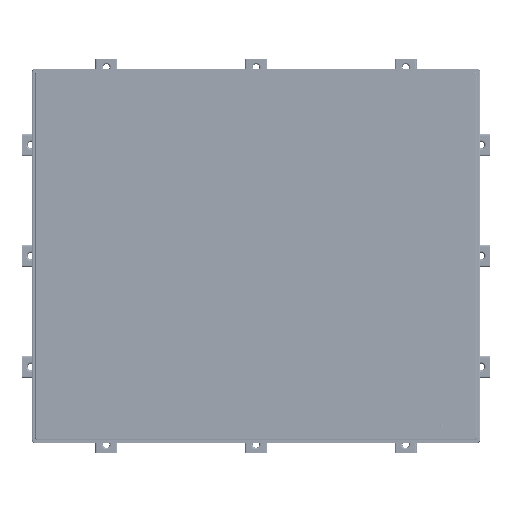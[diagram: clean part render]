
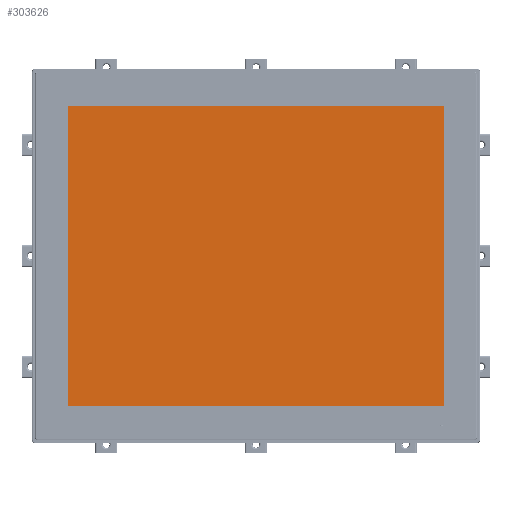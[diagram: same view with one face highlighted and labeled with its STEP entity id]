
A CAD part, top view. The second image highlights one B-rep face of the part: STEP entity #303626.
In plain terms, the highlighted planar face has unit normal (0, 0, 1).
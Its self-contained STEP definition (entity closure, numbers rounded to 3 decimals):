
#4119=DIRECTION('',(0.,1.,0.));
#4120=VECTOR('',#4119,271.);
#4121=CARTESIAN_POINT('',(169.25,-135.5,5.2));
#4122=LINE('',#4121,#4120);
#4123=DIRECTION('',(1.,0.,0.));
#4124=VECTOR('',#4123,46.75);
#4125=CARTESIAN_POINT('',(122.5,-135.5,5.2));
#4126=LINE('',#4125,#4124);
#4127=DIRECTION('',(0.,1.,0.));
#4128=VECTOR('',#4127,0.25);
#4129=CARTESIAN_POINT('',(122.5,-135.75,5.2));
#4130=LINE('',#4129,#4128);
#4131=DIRECTION('',(0.,1.,0.));
#4132=VECTOR('',#4131,0.25);
#4133=CARTESIAN_POINT('',(117.5,-135.75,5.2));
#4134=LINE('',#4133,#4132);
#4135=DIRECTION('',(1.,0.,0.));
#4136=VECTOR('',#4135,235.);
#4137=CARTESIAN_POINT('',(-117.5,-135.5,5.2));
#4138=LINE('',#4137,#4136);
#4139=DIRECTION('',(0.,1.,0.));
#4140=VECTOR('',#4139,0.25);
#4141=CARTESIAN_POINT('',(-117.5,-135.75,5.2));
#4142=LINE('',#4141,#4140);
#4143=DIRECTION('',(0.,1.,0.));
#4144=VECTOR('',#4143,0.25);
#4145=CARTESIAN_POINT('',(-122.5,-135.75,5.2));
#4146=LINE('',#4145,#4144);
#4147=DIRECTION('',(1.,0.,0.));
#4148=VECTOR('',#4147,46.75);
#4149=CARTESIAN_POINT('',(-169.25,-135.5,5.2));
#4150=LINE('',#4149,#4148);
#4151=DIRECTION('',(0.,-1.,0.));
#4152=VECTOR('',#4151,271.);
#4153=CARTESIAN_POINT('',(-169.25,135.5,5.2));
#4154=LINE('',#4153,#4152);
#4155=DIRECTION('',(-1.,0.,0.));
#4156=VECTOR('',#4155,338.5);
#4157=CARTESIAN_POINT('',(169.25,135.5,5.2));
#4158=LINE('',#4157,#4156);
#225439=DIRECTION('',(-1.,0.,0.));
#225440=VECTOR('',#225439,5.);
#225441=CARTESIAN_POINT('',(-117.5,-135.75,5.2));
#225442=LINE('',#225441,#225440);
#225447=DIRECTION('',(-1.,0.,0.));
#225448=VECTOR('',#225447,5.);
#225449=CARTESIAN_POINT('',(122.5,-135.75,5.2));
#225450=LINE('',#225449,#225448);
#289298=CARTESIAN_POINT('',(169.25,-135.5,5.2));
#289299=CARTESIAN_POINT('',(169.25,135.5,5.2));
#289300=VERTEX_POINT('',#289298);
#289301=VERTEX_POINT('',#289299);
#289302=CARTESIAN_POINT('',(-169.25,-135.5,5.2));
#289303=CARTESIAN_POINT('',(-122.5,-135.5,5.2));
#289304=VERTEX_POINT('',#289302);
#289305=VERTEX_POINT('',#289303);
#289306=CARTESIAN_POINT('',(-117.5,-135.5,5.2));
#289307=CARTESIAN_POINT('',(117.5,-135.5,5.2));
#289308=VERTEX_POINT('',#289306);
#289309=VERTEX_POINT('',#289307);
#289310=CARTESIAN_POINT('',(122.5,-135.5,5.2));
#289311=VERTEX_POINT('',#289310);
#289312=CARTESIAN_POINT('',(-169.25,135.5,5.2));
#289313=VERTEX_POINT('',#289312);
#289314=CARTESIAN_POINT('',(-122.5,-135.75,5.2));
#289315=VERTEX_POINT('',#289314);
#289316=CARTESIAN_POINT('',(-117.5,-135.75,5.2));
#289317=VERTEX_POINT('',#289316);
#289318=CARTESIAN_POINT('',(117.5,-135.75,5.2));
#289319=VERTEX_POINT('',#289318);
#289320=CARTESIAN_POINT('',(122.5,-135.75,5.2));
#289321=VERTEX_POINT('',#289320);
#303596=CARTESIAN_POINT('',(0.,0.,5.2));
#303597=DIRECTION('',(0.,0.,1.));
#303598=DIRECTION('',(1.,0.,0.));
#303599=AXIS2_PLACEMENT_3D('',#303596,#303597,#303598);
#303600=PLANE('',#303599);
#303601=ORIENTED_EDGE('',*,*,#303579,.F.);
#303603=ORIENTED_EDGE('',*,*,#303602,.F.);
#303605=ORIENTED_EDGE('',*,*,#303604,.F.);
#303607=ORIENTED_EDGE('',*,*,#303606,.T.);
#303609=ORIENTED_EDGE('',*,*,#303608,.T.);
#303611=ORIENTED_EDGE('',*,*,#303610,.F.);
#303613=ORIENTED_EDGE('',*,*,#303612,.F.);
#303615=ORIENTED_EDGE('',*,*,#303614,.T.);
#303617=ORIENTED_EDGE('',*,*,#303616,.T.);
#303619=ORIENTED_EDGE('',*,*,#303618,.F.);
#303621=ORIENTED_EDGE('',*,*,#303620,.F.);
#303623=ORIENTED_EDGE('',*,*,#303622,.F.);
#303624=EDGE_LOOP('',(#303601,#303603,#303605,#303607,#303609,#303611,#303613,
#303615,#303617,#303619,#303621,#303623));
#303625=FACE_OUTER_BOUND('',#303624,.F.);
#303626=ADVANCED_FACE('',(#303625),#303600,.T.);
#303579=EDGE_CURVE('',#289300,#289301,#4122,.T.);
#303602=EDGE_CURVE('',#289311,#289300,#4126,.T.);
#303604=EDGE_CURVE('',#289321,#289311,#4130,.T.);
#303606=EDGE_CURVE('',#289321,#289319,#225450,.T.);
#303608=EDGE_CURVE('',#289319,#289309,#4134,.T.);
#303610=EDGE_CURVE('',#289308,#289309,#4138,.T.);
#303612=EDGE_CURVE('',#289317,#289308,#4142,.T.);
#303614=EDGE_CURVE('',#289317,#289315,#225442,.T.);
#303616=EDGE_CURVE('',#289315,#289305,#4146,.T.);
#303618=EDGE_CURVE('',#289304,#289305,#4150,.T.);
#303620=EDGE_CURVE('',#289313,#289304,#4154,.T.);
#303622=EDGE_CURVE('',#289301,#289313,#4158,.T.);
